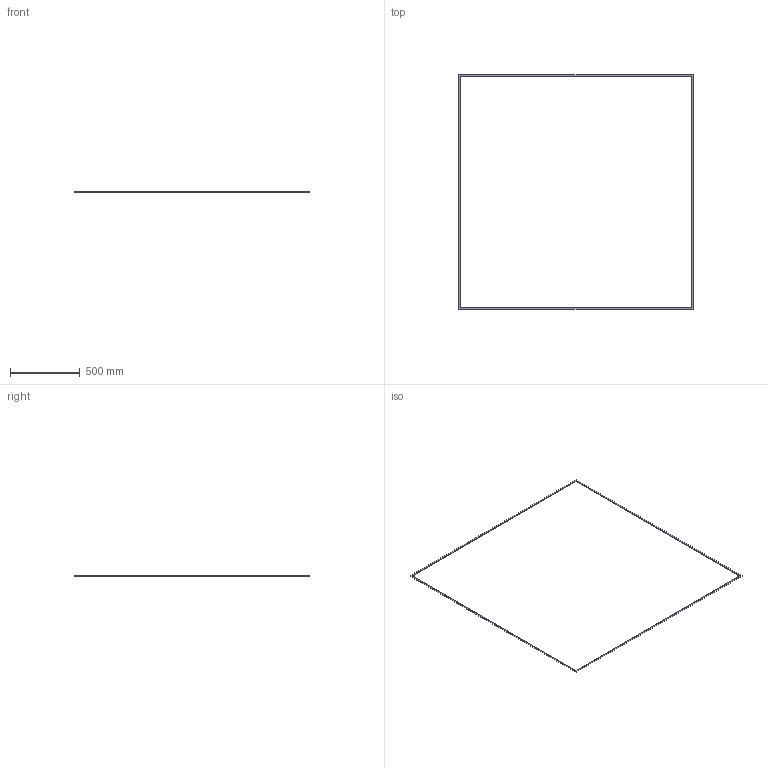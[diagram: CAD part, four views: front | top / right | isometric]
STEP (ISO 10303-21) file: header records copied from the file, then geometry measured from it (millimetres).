
FILE_DESCRIPTION(('Open CASCADE Model'),'2;1');
FILE_NAME('Open CASCADE Shape Model','2026-10-19T10:09:19',('Author'),( 'Open CASCADE'),'Open CASCADE STEP processor 8.0','Open CASCADE 8.0' ,'Unknown');
FILE_SCHEMA(('AUTOMOTIVE_DESIGN { 1 0 10303 214 1 1 1 1 }'));
Length unit declared in the file: millimetre
Products named in the file (1): TOL_JUNTA_EPDM_1662x1662x3_P05 21
Bounding box: 1682 x 1682 x 3 mm (x, y, z)
Volume: 220572 mm3; surface area: 187152 mm2
Topology: 1 solids, 1 shells, 10 faces, 24 edges, 16 vertices
Faces by surface type: plane 10
Entity records: 614 total; most frequent: CARTESIAN_POINT 99, DIRECTION 94, LINE 72, VECTOR 72, ORIENTED_EDGE 48, PCURVE 48, DEFINITIONAL_REPRESENTATION 48, EDGE_CURVE 24
